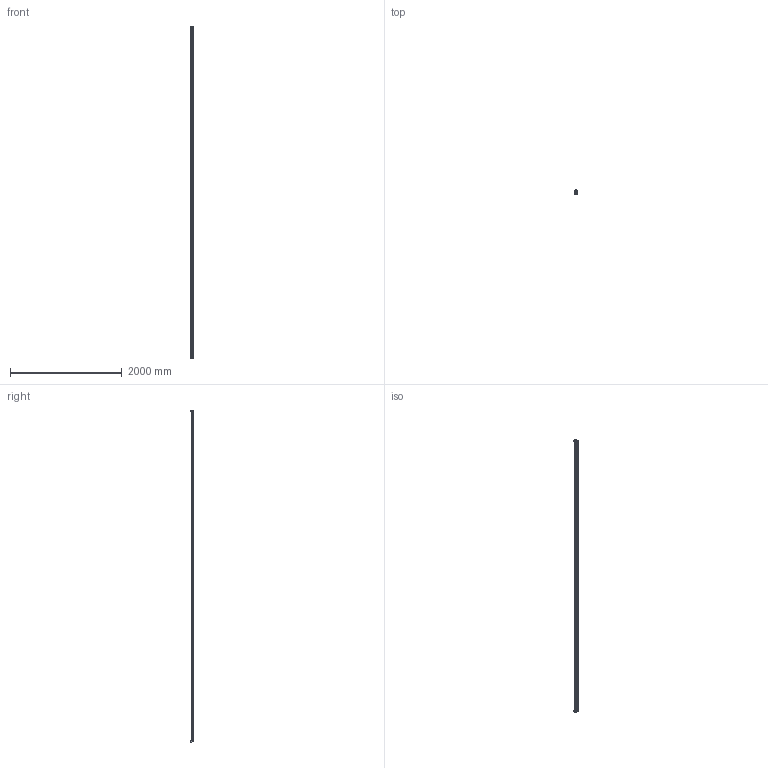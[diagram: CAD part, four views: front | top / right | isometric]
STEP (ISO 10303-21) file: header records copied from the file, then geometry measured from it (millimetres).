
FILE_DESCRIPTION((''),'2;1');
FILE_NAME('ROLLENSCHIENE_C','2021-12-23T04:12:28',('ac91sw'),(''),'CREO PARAMETRIC BY PTC INC, 2020044','CREO PARAMETRIC BY PTC INC, 2020044','');
FILE_SCHEMA(('AUTOMOTIVE_DESIGN { 1 0 10303 214 1 1 1 1 }'));
Length unit declared in the file: millimetre
Products named in the file (9): ROLLENSCHIENE_C_SKEL; ROLLENSCHIENE_C_RAIL1; ROLLENSCHIENE_C_BAND; R161953951_R_Z; R161953952_R_Z; 990000583_Z; 990000582_Z; R161953950_R_Z; ROLLENSCHIENE_C
Assembly tree (9 placements, depth 3):
  ROLLENSCHIENE_C
    ROLLENSCHIENE_C_SKEL
    ROLLENSCHIENE_C_RAIL1
    ROLLENSCHIENE_C_BAND
    R161953950_R_Z  x2
      R161953951_R_Z
      R161953952_R_Z
      990000583_Z
      990000582_Z
Bounding box: 62.25 x 61.55 x 5942.3 mm (x, y, z)
Volume: 10247461.7 mm3; surface area: 2079361.8 mm2
Topology: 10 solids, 10 shells, 795 faces, 2151 edges, 1775 vertices
Faces by surface type: cylinder 486, plane 289, cone 12, torus 8
Entity records: 25138 total; most frequent: DIRECTION 4243, CARTESIAN_POINT 4145, ORIENTED_EDGE 3396, EDGE_CURVE 1698, AXIS2_PLACEMENT_3D 1633, VERTEX_POINT 1114, EDGE_LOOP 1002, VECTOR 977
